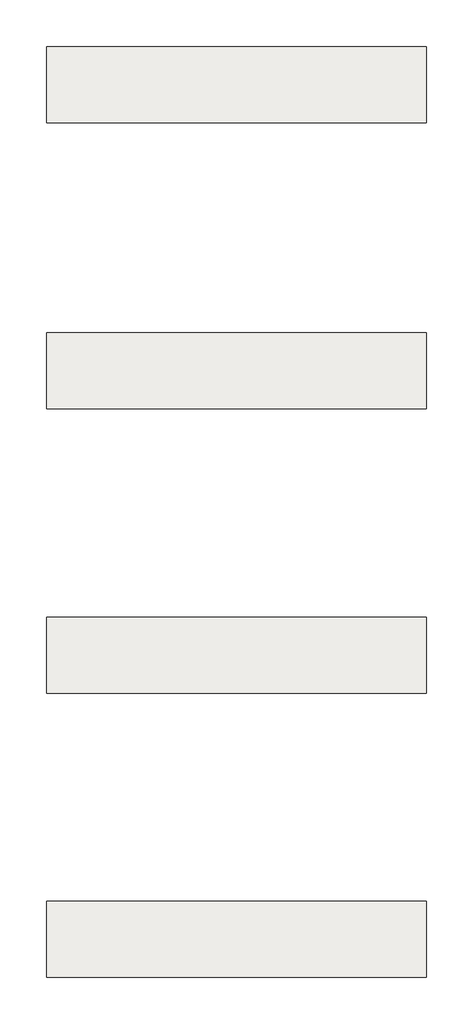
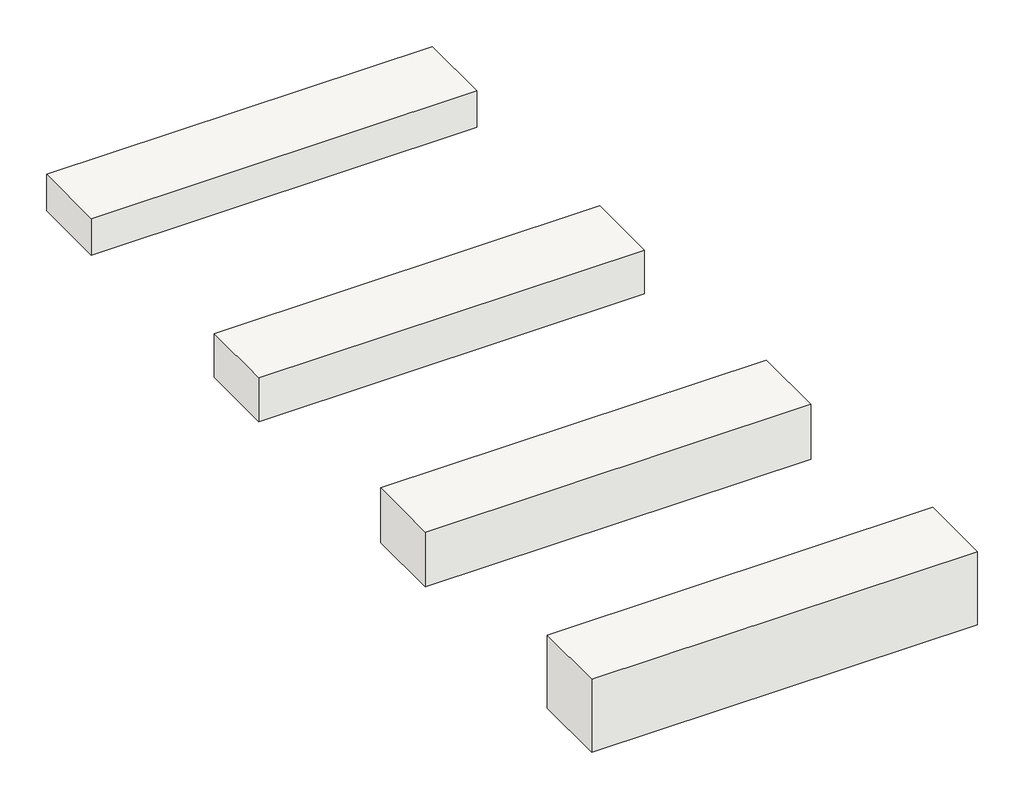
# One storey: 4 coverings.
"""IFC4 building model written with IfcOpenShell, lengths in millimetres."""

from ifc_helpers import new_model, si_unit, origin, origin_with_axes, place, context, project, spatial, polyline, outline, extrude, element, save

model = new_model("IFC4")

# Units and contexts
model_context = context("Model", 3, world=origin())
ifc_project = project(units=[si_unit("LENGTHUNIT", "METRE", prefix="MILLI")], contexts=[model_context])

# Site, building, storey
site = spatial("IfcSite", under=ifc_project)
building = spatial("IfcBuilding", under=site)
storey = spatial("IfcBuildingStorey", under=building, Name="Референтни ниво", Elevation=0.0)

# Coverings
placement = place(None, origin())
element("IfcCovering", 1, ObjectType="Knauf Insulation - CLT C1 Thermal - 100 mm - 100 x 1000 x 200 mm", at=placement, inside=storey, context=model_context, shape_type="SweptSolid", body=[
    extrude(outline(polyline([(-237352.0902031, 183264.3977243), (-237352.0902031, 183064.3977243), (-238352.0902031, 183064.3977243), (-238352.0902031, 183264.3977243), (-237352.0902031, 183264.3977243)])), origin_with_axes(), (0.0, 0.0, 1.0), 100.0),
])
element("IfcCovering", 2, ObjectType="Knauf Insulation - CLT C1 Thermal - 120 mm - 120 x 1000 x 200 mm", at=placement, inside=storey, context=model_context, shape_type="SweptSolid", body=[
    extrude(outline(polyline([(-237352.0902031, 182511.8977243), (-237352.0902031, 182311.8977243), (-238352.0902031, 182311.8977243), (-238352.0902031, 182511.8977243), (-237352.0902031, 182511.8977243)])), origin_with_axes(), (0.0, 0.0, 1.0), 120.0),
])
element("IfcCovering", 3, ObjectType="Knauf Insulation - CLT C1 Thermal - 150 mm - 150 x 1000 x 200 mm", at=placement, inside=storey, context=model_context, shape_type="SweptSolid", body=[
    extrude(outline(polyline([(-237352.0902031, 181764.3977243), (-237352.0902031, 181564.3977243), (-238352.0902031, 181564.3977243), (-238352.0902031, 181764.3977243), (-237352.0902031, 181764.3977243)])), origin_with_axes(), (0.0, 0.0, 1.0), 150.0),
])
element("IfcCovering", 4, ObjectType="Knauf Insulation - CLT C1 Thermal - 200 mm - 200 x 1000 x 200 mm", at=placement, inside=storey, context=model_context, shape_type="SweptSolid", body=[
    extrude(outline(polyline([(-237352.0902031, 181016.8977243), (-237352.0902031, 180816.8977243), (-238352.0902031, 180816.8977243), (-238352.0902031, 181016.8977243), (-237352.0902031, 181016.8977243)])), origin_with_axes(), (0.0, 0.0, 1.0), 200.0),
])

save(model, "model.ifc")
